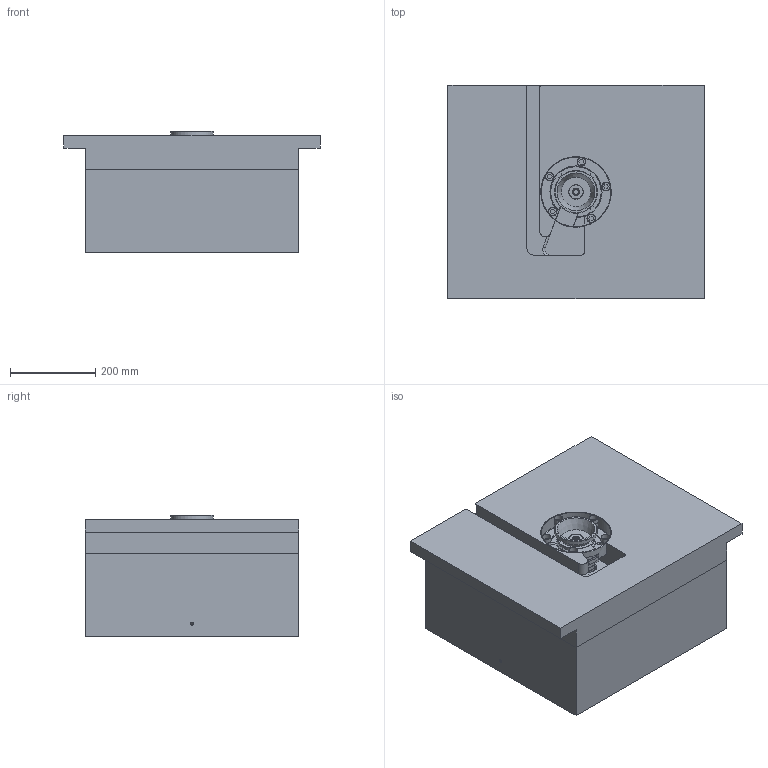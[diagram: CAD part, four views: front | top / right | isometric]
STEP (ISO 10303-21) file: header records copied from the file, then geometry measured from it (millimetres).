
FILE_DESCRIPTION( ( 'STEP AP214' ), '1' );
FILE_NAME( 'D:/PROIECTE_YUDO_2009/PROIECTE YUDO 3D/SAS/YUEU09-SAS42VV233_7/YUEU09-SAS42VV233_7.step', '2009-04-09T07:15:00', ( ' ' ), ( ' ' ), 'XStep 1.0', ' ', ' ' );
FILE_SCHEMA( ( 'automotive_design' ) );
Length unit declared in the file: millimetre
Products named in the file (27): 1; 2; 3; 4; 5; 6; 7; 8; 9; 10; 11; 12; 13; 14; 15; 16; 17; 18; 19; 20; 21; 22; 23; 24; 25; 26; 27
Bounding box: 600 x 500 x 285.5 mm (x, y, z)
Volume: 69062114.4 mm3; surface area: 2036525.6 mm2
Topology: 27 solids, 27 shells, 659 faces, 1433 edges, 939 vertices
Faces by surface type: plane 351, cylinder 209, cone 79, torus 17, bspline 3
Full cylindrical faces by diameter (mm): 2.5 x2, 3.6 x2, 5.34 x8, 5.35 x16, 6 x18, 7 x16, 10 x10, 11.34 x5, 11.35 x10, 12 x5, 12.5 x1, 13 x5, 14 x5, 19 x5, 20 x5, 25 x2, 28 x1, 33 x2, 36 x1, 39 x1, 42 x4, 43.5 x1, 48 x3, 51.4 x1, 57 x1, 58 x1, 60.8 x1, 67 x3, 76 x2, 85 x1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
Entity records: 22437 total; most frequent: CARTESIAN_POINT 3216, DIRECTION 2969, ORIENTED_EDGE 2262, AXIS2_PLACEMENT_3D 1206, EDGE_CURVE 1131, EDGE_LOOP 1029, VERTEX_POINT 881, FACE_OUTER_BOUND 825
